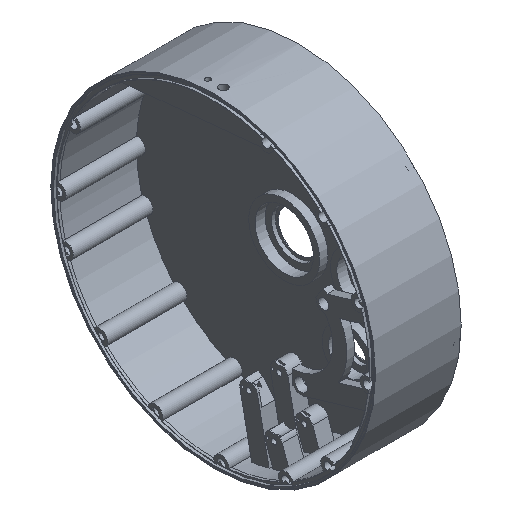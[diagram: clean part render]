
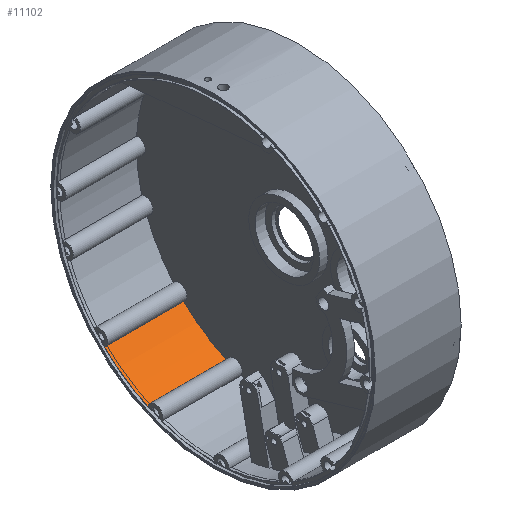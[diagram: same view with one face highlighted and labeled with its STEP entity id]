
A CAD part, isometric view. The second image highlights one B-rep face of the part: STEP entity #11102.
In plain terms, the highlighted cylindrical face has radius 123 mm (diameter 246 mm), a partial arc.
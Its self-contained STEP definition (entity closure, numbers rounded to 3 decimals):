
#3651 = PLANE('',#3652);
#3652 = AXIS2_PLACEMENT_3D('',#3653,#3654,#3655);
#3653 = CARTESIAN_POINT('',(0.,0.,0.));
#3654 = DIRECTION('',(1.,0.,0.));
#3655 = DIRECTION('',(0.,1.,0.));
#3704 = PLANE('',#3705);
#3705 = AXIS2_PLACEMENT_3D('',#3706,#3707,#3708);
#3706 = CARTESIAN_POINT('',(62.5,0.,0.));
#3707 = DIRECTION('',(1.,0.,0.));
#3708 = DIRECTION('',(0.,1.,0.));
#4013 = CYLINDRICAL_SURFACE('',#4014,6.);
#4014 = AXIS2_PLACEMENT_3D('',#4015,#4016,#4017);
#4015 = CARTESIAN_POINT('',(0.,45.702,-113.116));
#4016 = DIRECTION('',(1.,0.,0.));
#4017 = DIRECTION('',(0.,1.,0.));
#6260 = VERTEX_POINT('',#6261);
#6261 = CARTESIAN_POINT('',(0.,85.802,-88.131));
#6276 = CYLINDRICAL_SURFACE('',#6277,6.);
#6277 = AXIS2_PLACEMENT_3D('',#6278,#6279,#6280);
#6278 = CARTESIAN_POINT('',(0.,89.225,-83.204));
#6279 = DIRECTION('',(1.,0.,0.));
#6280 = DIRECTION('',(0.,1.,0.));
#6288 = EDGE_CURVE('',#6289,#6260,#6291,.T.);
#6289 = VERTEX_POINT('',#6290);
#6290 = CARTESIAN_POINT('',(0.,51.529,-111.686));
#6291 = SURFACE_CURVE('',#6292,(#6297,#6304),.PCURVE_S1.);
#6292 = CIRCLE('',#6293,123.);
#6293 = AXIS2_PLACEMENT_3D('',#6294,#6295,#6296);
#6294 = CARTESIAN_POINT('',(0.,0.,0.));
#6295 = DIRECTION('',(1.,0.,0.));
#6296 = DIRECTION('',(0.,1.,0.));
#6297 = PCURVE('',#3651,#6298);
#6298 = DEFINITIONAL_REPRESENTATION('',(#6299),#6303);
#6299 = CIRCLE('',#6300,123.);
#6300 = AXIS2_PLACEMENT_2D('',#6301,#6302);
#6301 = CARTESIAN_POINT('',(0.,0.));
#6302 = DIRECTION('',(1.,0.));
#6303 = ( GEOMETRIC_REPRESENTATION_CONTEXT(2) 
PARAMETRIC_REPRESENTATION_CONTEXT() REPRESENTATION_CONTEXT('2D SPACE',''
  ) );
#6304 = PCURVE('',#6305,#6310);
#6305 = CYLINDRICAL_SURFACE('',#6306,123.);
#6306 = AXIS2_PLACEMENT_3D('',#6307,#6308,#6309);
#6307 = CARTESIAN_POINT('',(-62.5,0.,0.));
#6308 = DIRECTION('',(1.,0.,0.));
#6309 = DIRECTION('',(0.,1.,0.));
#6310 = DEFINITIONAL_REPRESENTATION('',(#6311),#6315);
#6311 = LINE('',#6312,#6313);
#6312 = CARTESIAN_POINT('',(0.,62.5));
#6313 = VECTOR('',#6314,1.);
#6314 = DIRECTION('',(1.,0.));
#6315 = ( GEOMETRIC_REPRESENTATION_CONTEXT(2) 
PARAMETRIC_REPRESENTATION_CONTEXT() REPRESENTATION_CONTEXT('2D SPACE',''
  ) );
#6926 = VERTEX_POINT('',#6927);
#6927 = CARTESIAN_POINT('',(62.5,51.529,-111.686));
#6949 = EDGE_CURVE('',#6926,#6950,#6952,.T.);
#6950 = VERTEX_POINT('',#6951);
#6951 = CARTESIAN_POINT('',(62.5,85.802,-88.131));
#6952 = SURFACE_CURVE('',#6953,(#6958,#6965),.PCURVE_S1.);
#6953 = CIRCLE('',#6954,123.);
#6954 = AXIS2_PLACEMENT_3D('',#6955,#6956,#6957);
#6955 = CARTESIAN_POINT('',(62.5,0.,0.));
#6956 = DIRECTION('',(1.,0.,0.));
#6957 = DIRECTION('',(0.,1.,0.));
#6958 = PCURVE('',#3704,#6959);
#6959 = DEFINITIONAL_REPRESENTATION('',(#6960),#6964);
#6960 = CIRCLE('',#6961,123.);
#6961 = AXIS2_PLACEMENT_2D('',#6962,#6963);
#6962 = CARTESIAN_POINT('',(0.,0.));
#6963 = DIRECTION('',(1.,0.));
#6964 = ( GEOMETRIC_REPRESENTATION_CONTEXT(2) 
PARAMETRIC_REPRESENTATION_CONTEXT() REPRESENTATION_CONTEXT('2D SPACE',''
  ) );
#6965 = PCURVE('',#6305,#6966);
#6966 = DEFINITIONAL_REPRESENTATION('',(#6967),#6971);
#6967 = LINE('',#6968,#6969);
#6968 = CARTESIAN_POINT('',(0.,125.));
#6969 = VECTOR('',#6970,1.);
#6970 = DIRECTION('',(1.,0.));
#6971 = ( GEOMETRIC_REPRESENTATION_CONTEXT(2) 
PARAMETRIC_REPRESENTATION_CONTEXT() REPRESENTATION_CONTEXT('2D SPACE',''
  ) );
#7674 = EDGE_CURVE('',#6289,#6926,#7675,.T.);
#7675 = SURFACE_CURVE('',#7676,(#7680,#7686),.PCURVE_S1.);
#7676 = LINE('',#7677,#7678);
#7677 = CARTESIAN_POINT('',(-62.5,51.529,-111.686));
#7678 = VECTOR('',#7679,1.);
#7679 = DIRECTION('',(1.,0.,0.));
#7680 = PCURVE('',#4013,#7681);
#7681 = DEFINITIONAL_REPRESENTATION('',(#7682),#7685);
#7682 = B_SPLINE_CURVE_WITH_KNOTS('',1,(#7683,#7684),.UNSPECIFIED.,.F.,
  .F.,(2,2),(62.5,125.),.PIECEWISE_BEZIER_KNOTS.);
#7683 = CARTESIAN_POINT('',(0.241,0.));
#7684 = CARTESIAN_POINT('',(0.241,62.5));
#7685 = ( GEOMETRIC_REPRESENTATION_CONTEXT(2) 
PARAMETRIC_REPRESENTATION_CONTEXT() REPRESENTATION_CONTEXT('2D SPACE',''
  ) );
#7686 = PCURVE('',#6305,#7687);
#7687 = DEFINITIONAL_REPRESENTATION('',(#7688),#7691);
#7688 = B_SPLINE_CURVE_WITH_KNOTS('',1,(#7689,#7690),.UNSPECIFIED.,.F.,
  .F.,(2,2),(62.5,125.),.PIECEWISE_BEZIER_KNOTS.);
#7689 = CARTESIAN_POINT('',(5.145,62.5));
#7690 = CARTESIAN_POINT('',(5.145,125.));
#7691 = ( GEOMETRIC_REPRESENTATION_CONTEXT(2) 
PARAMETRIC_REPRESENTATION_CONTEXT() REPRESENTATION_CONTEXT('2D SPACE',''
  ) );
#11083 = EDGE_CURVE('',#6260,#6950,#11084,.T.);
#11084 = SURFACE_CURVE('',#11085,(#11089,#11095),.PCURVE_S1.);
#11085 = LINE('',#11086,#11087);
#11086 = CARTESIAN_POINT('',(-62.5,85.802,-88.131));
#11087 = VECTOR('',#11088,1.);
#11088 = DIRECTION('',(1.,0.,0.));
#11089 = PCURVE('',#6276,#11090);
#11090 = DEFINITIONAL_REPRESENTATION('',(#11091),#11094);
#11091 = B_SPLINE_CURVE_WITH_KNOTS('',1,(#11092,#11093),.UNSPECIFIED.,
  .F.,.F.,(2,2),(62.5,125.),.PIECEWISE_BEZIER_KNOTS.);
#11092 = CARTESIAN_POINT('',(4.105,0.));
#11093 = CARTESIAN_POINT('',(4.105,62.5));
#11094 = ( GEOMETRIC_REPRESENTATION_CONTEXT(2) 
PARAMETRIC_REPRESENTATION_CONTEXT() REPRESENTATION_CONTEXT('2D SPACE',''
  ) );
#11095 = PCURVE('',#6305,#11096);
#11096 = DEFINITIONAL_REPRESENTATION('',(#11097),#11100);
#11097 = B_SPLINE_CURVE_WITH_KNOTS('',1,(#11098,#11099),.UNSPECIFIED.,
  .F.,.F.,(2,2),(62.5,125.),.PIECEWISE_BEZIER_KNOTS.);
#11098 = CARTESIAN_POINT('',(5.484,62.5));
#11099 = CARTESIAN_POINT('',(5.484,125.));
#11100 = ( GEOMETRIC_REPRESENTATION_CONTEXT(2) 
PARAMETRIC_REPRESENTATION_CONTEXT() REPRESENTATION_CONTEXT('2D SPACE',''
  ) );
#11102 = ADVANCED_FACE('',(#11103),#6305,.F.);
#11103 = FACE_BOUND('',#11104,.F.);
#11104 = EDGE_LOOP('',(#11105,#11106,#11107,#11108));
#11105 = ORIENTED_EDGE('',*,*,#7674,.F.);
#11106 = ORIENTED_EDGE('',*,*,#6288,.T.);
#11107 = ORIENTED_EDGE('',*,*,#11083,.T.);
#11108 = ORIENTED_EDGE('',*,*,#6949,.F.);
